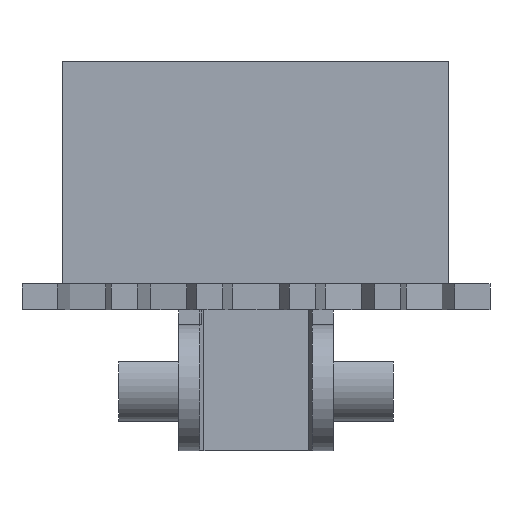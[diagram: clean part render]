
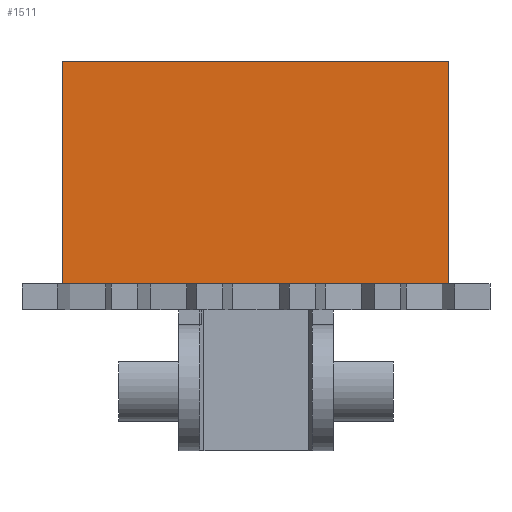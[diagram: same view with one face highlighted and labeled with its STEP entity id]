
A CAD part, left-side view. The second image highlights one B-rep face of the part: STEP entity #1511.
In plain terms, the highlighted planar face has unit normal (-1, 0, 0).
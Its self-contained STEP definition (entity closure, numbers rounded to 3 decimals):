
#15 = EDGE_CURVE ( 'NONE', #740, #30, #304, .T. ) ;
#30 = VERTEX_POINT ( 'NONE', #378 ) ;
#301 = DIRECTION ( 'NONE',  ( 0., -1., 0. ) ) ;
#302 = VECTOR ( 'NONE', #301, 1000. ) ;
#303 = CARTESIAN_POINT ( 'NONE',  ( -4.209, -26., 36.6 ) ) ;
#304 = LINE ( 'NONE', #303, #302 ) ;
#378 = CARTESIAN_POINT ( 'NONE',  ( -4.209, -26., 36.6 ) ) ;
#740 = VERTEX_POINT ( 'NONE', #3056 ) ;
#1467 = ORIENTED_EDGE ( 'NONE', *, *, #1547, .F. ) ;
#1468 = ORIENTED_EDGE ( 'NONE', *, *, #15, .T. ) ;
#1470 = EDGE_CURVE ( 'NONE', #1487, #740, #2551, .T. ) ;
#1487 = VERTEX_POINT ( 'NONE', #2535 ) ;
#1511 = ADVANCED_FACE ( 'NONE', ( #2524 ), #2478, .F. ) ;
#1512 = EDGE_LOOP ( 'NONE', ( #1468, #1467, #1589, #1580 ) ) ;
#1533 = VERTEX_POINT ( 'NONE', #2603 ) ;
#1547 = EDGE_CURVE ( 'NONE', #1533, #30, #2598, .T. ) ;
#1566 = EDGE_CURVE ( 'NONE', #1487, #1533, #2647, .T. ) ;
#1580 = ORIENTED_EDGE ( 'NONE', *, *, #1470, .T. ) ;
#1589 = ORIENTED_EDGE ( 'NONE', *, *, #1566, .F. ) ;
#2463 = DIRECTION ( 'NONE',  ( 1., 0., 0. ) ) ;
#2477 = DIRECTION ( 'NONE',  ( 0., 1., 0. ) ) ;
#2478 = PLANE ( 'NONE',  #2481 ) ;
#2481 = AXIS2_PLACEMENT_3D ( 'NONE', #2487, #2463, #2477 ) ;
#2487 = CARTESIAN_POINT ( 'NONE',  ( -4.209, -26., 66.6 ) ) ;
#2524 = FACE_OUTER_BOUND ( 'NONE', #1512, .T. ) ;
#2527 = DIRECTION ( 'NONE',  ( 0., 0., -1. ) ) ;
#2535 = CARTESIAN_POINT ( 'NONE',  ( -4.209, 26., 66.6 ) ) ;
#2539 = VECTOR ( 'NONE', #2527, 1000. ) ;
#2550 = CARTESIAN_POINT ( 'NONE',  ( -4.209, 26., 66.6 ) ) ;
#2551 = LINE ( 'NONE', #2550, #2539 ) ;
#2592 = CARTESIAN_POINT ( 'NONE',  ( -4.209, -26., 66.6 ) ) ;
#2598 = LINE ( 'NONE', #2592, #2607 ) ;
#2603 = CARTESIAN_POINT ( 'NONE',  ( -4.209, -26., 66.6 ) ) ;
#2606 = DIRECTION ( 'NONE',  ( 0., 0., -1. ) ) ;
#2607 = VECTOR ( 'NONE', #2606, 1000. ) ;
#2626 = DIRECTION ( 'NONE',  ( 0., -1., 0. ) ) ;
#2627 = VECTOR ( 'NONE', #2626, 1000. ) ;
#2646 = CARTESIAN_POINT ( 'NONE',  ( -4.209, -26., 66.6 ) ) ;
#2647 = LINE ( 'NONE', #2646, #2627 ) ;
#3056 = CARTESIAN_POINT ( 'NONE',  ( -4.209, 26., 36.6 ) ) ;
